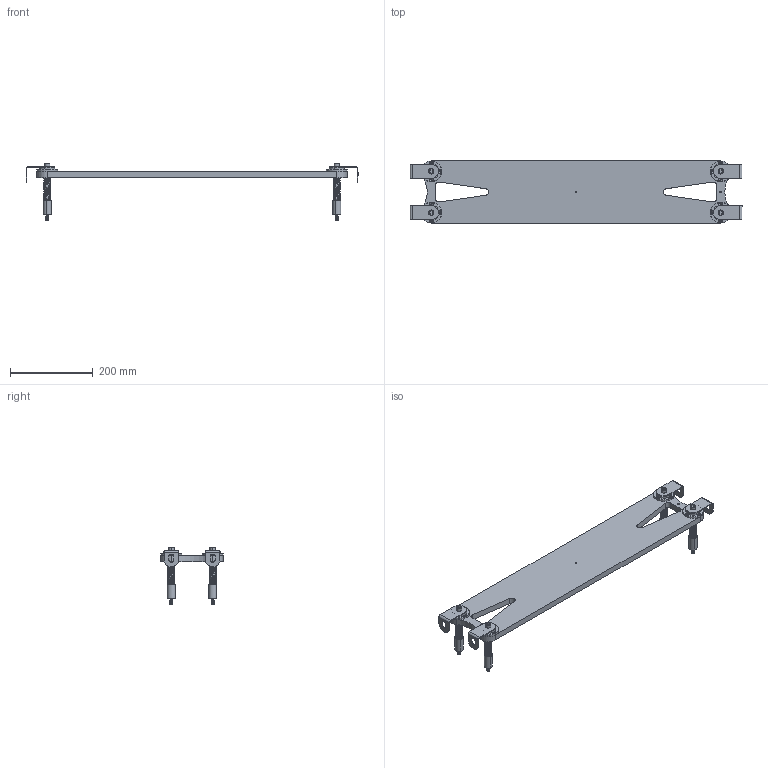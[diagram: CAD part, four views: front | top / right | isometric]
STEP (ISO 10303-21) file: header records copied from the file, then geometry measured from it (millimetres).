
FILE_DESCRIPTION (( 'STEP AP203' ), '1' );
FILE_NAME ('3-9-23985.STEP', '2018-06-05T08:32:26', ( '' ), ( '' ), 'SwSTEP 2.0', 'SolidWorks 2018', '' );
FILE_SCHEMA (( 'CONFIG_CONTROL_DESIGN' ));
Length unit declared in the file: millimetre
Products named in the file (1): 3-9-23985
Bounding box: 803 x 150 x 139 mm (x, y, z)
Surface area: 341740.1 mm2 (no closed solid volume)
Topology: 0 solids, 45 shells, 604 faces, 1648 edges, 1102 vertices
Faces by surface type: cylinder 294, plane 146, cone 80, bspline 44, torus 40
Entity records: 51495 total; most frequent: CARTESIAN_POINT 36367, DIRECTION 3232, ORIENTED_EDGE 2964, EDGE_CURVE 1648, AXIS2_PLACEMENT_3D 1303, VERTEX_POINT 1102, CIRCLE 742, EDGE_LOOP 740
